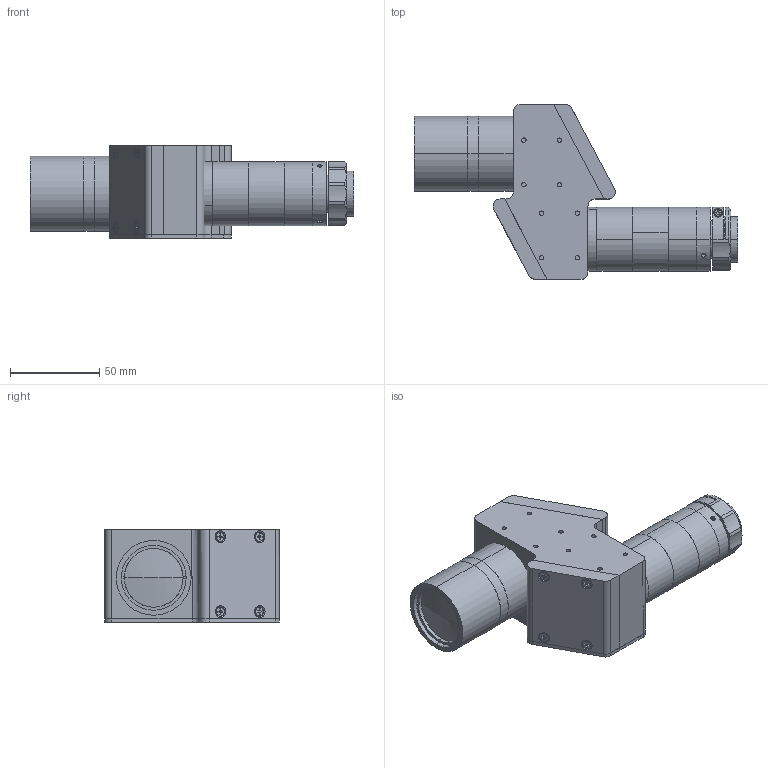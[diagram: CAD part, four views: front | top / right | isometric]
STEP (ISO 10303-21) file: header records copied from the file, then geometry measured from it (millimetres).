
FILE_DESCRIPTION (( 'STEP AP203' ), '1' );
FILE_NAME ('XF-MH055X421.STEP', '2020-08-24T07:16:40', ( 'canrill-02' ), ( '' ), 'SwSTEP 2.0', 'SolidWorks 2014', '' );
FILE_SCHEMA (( 'CONFIG_CONTROL_DESIGN' ));
Length unit declared in the file: millimetre
Products named in the file (1): XF-MH055X421
Bounding box: 181.47 x 98.08 x 52.16 mm (x, y, z)
Surface area: 50047.1 mm2 (no closed solid volume)
Topology: 0 solids, 32 shells, 428 faces, 1346 edges, 927 vertices
Faces by surface type: plane 219, cylinder 164, cone 41, sphere 2, torus 2
Entity records: 15260 total; most frequent: CARTESIAN_POINT 3021, DIRECTION 2658, ORIENTED_EDGE 2248, EDGE_CURVE 1344, VERTEX_POINT 927, AXIS2_PLACEMENT_3D 908, VECTOR 842, LINE 842
